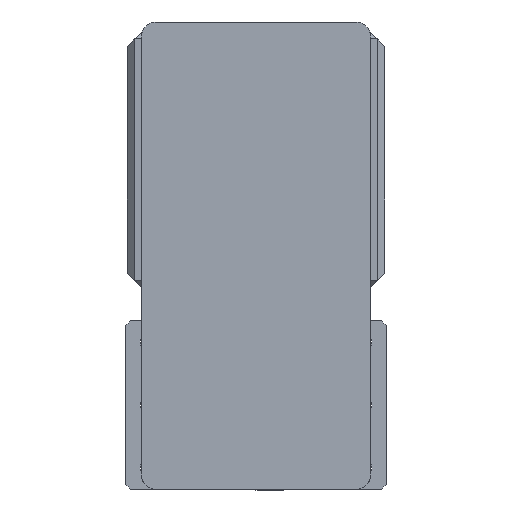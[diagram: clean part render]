
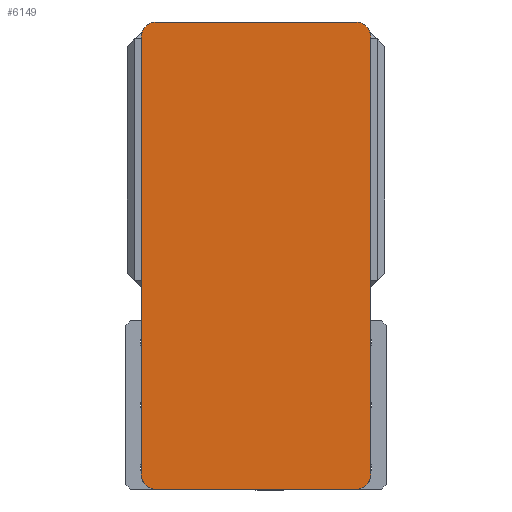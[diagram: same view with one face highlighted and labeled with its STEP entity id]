
A CAD part, left-side view. The second image highlights one B-rep face of the part: STEP entity #6149.
In plain terms, the highlighted planar face has unit normal (-1, 0, 0) as drawn and (0, 0, 1) by its records, which use the part's own axes.
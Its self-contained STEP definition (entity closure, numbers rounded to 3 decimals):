
#187 = DIRECTION ( 'NONE',  ( 0., 0., 1. ) ) ;
#320 = EDGE_CURVE ( 'NONE', #11674, #12855, #15343, .T. ) ;
#358 = EDGE_CURVE ( 'NONE', #12145, #11288, #3394, .T. ) ;
#759 = VERTEX_POINT ( 'NONE', #6181 ) ;
#1375 = CARTESIAN_POINT ( 'NONE',  ( -65., 152.5, 105. ) ) ;
#1526 = ORIENTED_EDGE ( 'NONE', *, *, #16081, .T. ) ;
#1699 = CARTESIAN_POINT ( 'NONE',  ( 65., 152.5, 105. ) ) ;
#1778 = LINE ( 'NONE', #14802, #9616 ) ;
#1807 = CARTESIAN_POINT ( 'NONE',  ( -75., -142.5, 105. ) ) ;
#1838 = VERTEX_POINT ( 'NONE', #9108 ) ;
#2110 = AXIS2_PLACEMENT_3D ( 'NONE', #5711, #16615, #7285 ) ;
#2565 = DIRECTION ( 'NONE',  ( 0., 0., 1. ) ) ;
#2672 = ORIENTED_EDGE ( 'NONE', *, *, #358, .T. ) ;
#2912 = AXIS2_PLACEMENT_3D ( 'NONE', #11946, #2565, #13514 ) ;
#3279 = LINE ( 'NONE', #6030, #19375 ) ;
#3292 = PLANE ( 'NONE',  #5349 ) ;
#3394 = CIRCLE ( 'NONE', #4095, 10. ) ;
#3691 = CIRCLE ( 'NONE', #2912, 10. ) ;
#4029 = EDGE_CURVE ( 'NONE', #9887, #12145, #1778, .T. ) ;
#4095 = AXIS2_PLACEMENT_3D ( 'NONE', #19227, #18881, #17667 ) ;
#4543 = CARTESIAN_POINT ( 'NONE',  ( 65., -142.5, 105. ) ) ;
#4704 = VECTOR ( 'NONE', #8051, 1000. ) ;
#5054 = DIRECTION ( 'NONE',  ( -1., 0., 0. ) ) ;
#5349 = AXIS2_PLACEMENT_3D ( 'NONE', #6449, #187, #11140 ) ;
#5711 = CARTESIAN_POINT ( 'NONE',  ( -65., 142.5, 105. ) ) ;
#6030 = CARTESIAN_POINT ( 'NONE',  ( 75., 152.5, 105. ) ) ;
#6123 = DIRECTION ( 'NONE',  ( 1., 0., 0. ) ) ;
#6149 = ADVANCED_FACE ( 'NONE', ( #19313 ), #3292, .T. ) ;
#6181 = CARTESIAN_POINT ( 'NONE',  ( 75., -142.5, 105. ) ) ;
#6449 = CARTESIAN_POINT ( 'NONE',  ( 0., 0., 105. ) ) ;
#7064 = VECTOR ( 'NONE', #5054, 1000. ) ;
#7070 = EDGE_CURVE ( 'NONE', #10045, #11674, #3691, .T. ) ;
#7285 = DIRECTION ( 'NONE',  ( 1., 0., 0. ) ) ;
#7991 = CIRCLE ( 'NONE', #2110, 10. ) ;
#8051 = DIRECTION ( 'NONE',  ( 1., 0., 0. ) ) ;
#9108 = CARTESIAN_POINT ( 'NONE',  ( 65., -152.5, 105. ) ) ;
#9616 = VECTOR ( 'NONE', #16354, 1000. ) ;
#9755 = CARTESIAN_POINT ( 'NONE',  ( -75., 152.5, 105. ) ) ;
#9887 = VERTEX_POINT ( 'NONE', #12923 ) ;
#9963 = CARTESIAN_POINT ( 'NONE',  ( 75., 142.5, 105. ) ) ;
#10045 = VERTEX_POINT ( 'NONE', #9963 ) ;
#10286 = AXIS2_PLACEMENT_3D ( 'NONE', #4543, #15458, #6123 ) ;
#10724 = EDGE_CURVE ( 'NONE', #1838, #759, #17330, .T. ) ;
#11140 = DIRECTION ( 'NONE',  ( 1., 0., 0. ) ) ;
#11288 = VERTEX_POINT ( 'NONE', #19935 ) ;
#11674 = VERTEX_POINT ( 'NONE', #1699 ) ;
#11946 = CARTESIAN_POINT ( 'NONE',  ( 65., 142.5, 105. ) ) ;
#12145 = VERTEX_POINT ( 'NONE', #1807 ) ;
#12855 = VERTEX_POINT ( 'NONE', #1375 ) ;
#12923 = CARTESIAN_POINT ( 'NONE',  ( -75., 142.5, 105. ) ) ;
#13277 = ORIENTED_EDGE ( 'NONE', *, *, #17421, .T. ) ;
#13510 = LINE ( 'NONE', #15835, #4704 ) ;
#13514 = DIRECTION ( 'NONE',  ( 1., 0., 0. ) ) ;
#13969 = EDGE_LOOP ( 'NONE', ( #13277, #17972, #1526, #15220, #15977, #17163, #14252, #2672 ) ) ;
#14252 = ORIENTED_EDGE ( 'NONE', *, *, #4029, .T. ) ;
#14802 = CARTESIAN_POINT ( 'NONE',  ( -75., 152.5, 105. ) ) ;
#15220 = ORIENTED_EDGE ( 'NONE', *, *, #7070, .T. ) ;
#15298 = EDGE_CURVE ( 'NONE', #12855, #9887, #7991, .T. ) ;
#15343 = LINE ( 'NONE', #9755, #7064 ) ;
#15458 = DIRECTION ( 'NONE',  ( 0., 0., 1. ) ) ;
#15835 = CARTESIAN_POINT ( 'NONE',  ( -75., -152.5, 105. ) ) ;
#15977 = ORIENTED_EDGE ( 'NONE', *, *, #320, .T. ) ;
#16081 = EDGE_CURVE ( 'NONE', #759, #10045, #3279, .T. ) ;
#16354 = DIRECTION ( 'NONE',  ( 0., -1., 0. ) ) ;
#16615 = DIRECTION ( 'NONE',  ( 0., 0., 1. ) ) ;
#16930 = DIRECTION ( 'NONE',  ( 0., 1., 0. ) ) ;
#17163 = ORIENTED_EDGE ( 'NONE', *, *, #15298, .T. ) ;
#17330 = CIRCLE ( 'NONE', #10286, 10. ) ;
#17421 = EDGE_CURVE ( 'NONE', #11288, #1838, #13510, .T. ) ;
#17667 = DIRECTION ( 'NONE',  ( 1., 0., 0. ) ) ;
#17972 = ORIENTED_EDGE ( 'NONE', *, *, #10724, .T. ) ;
#18881 = DIRECTION ( 'NONE',  ( 0., 0., 1. ) ) ;
#19227 = CARTESIAN_POINT ( 'NONE',  ( -65., -142.5, 105. ) ) ;
#19313 = FACE_OUTER_BOUND ( 'NONE', #13969, .T. ) ;
#19375 = VECTOR ( 'NONE', #16930, 1000. ) ;
#19935 = CARTESIAN_POINT ( 'NONE',  ( -65., -152.5, 105. ) ) ;
